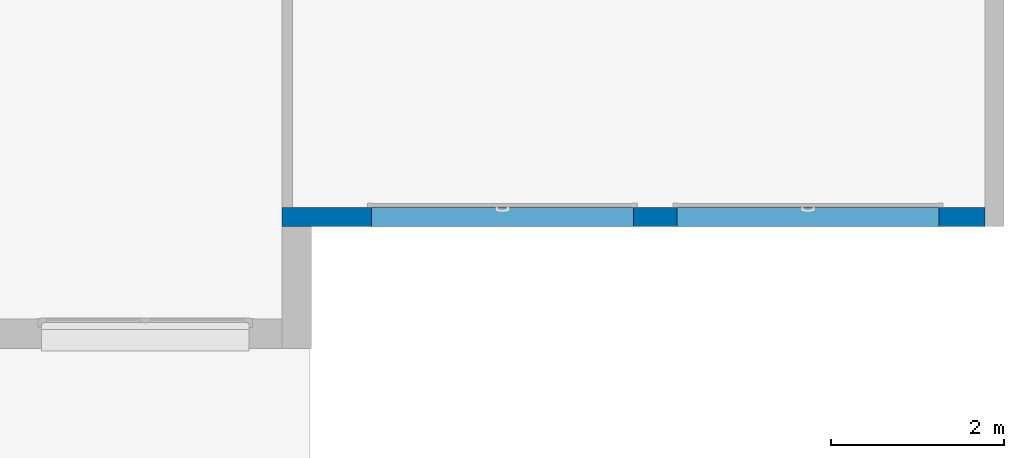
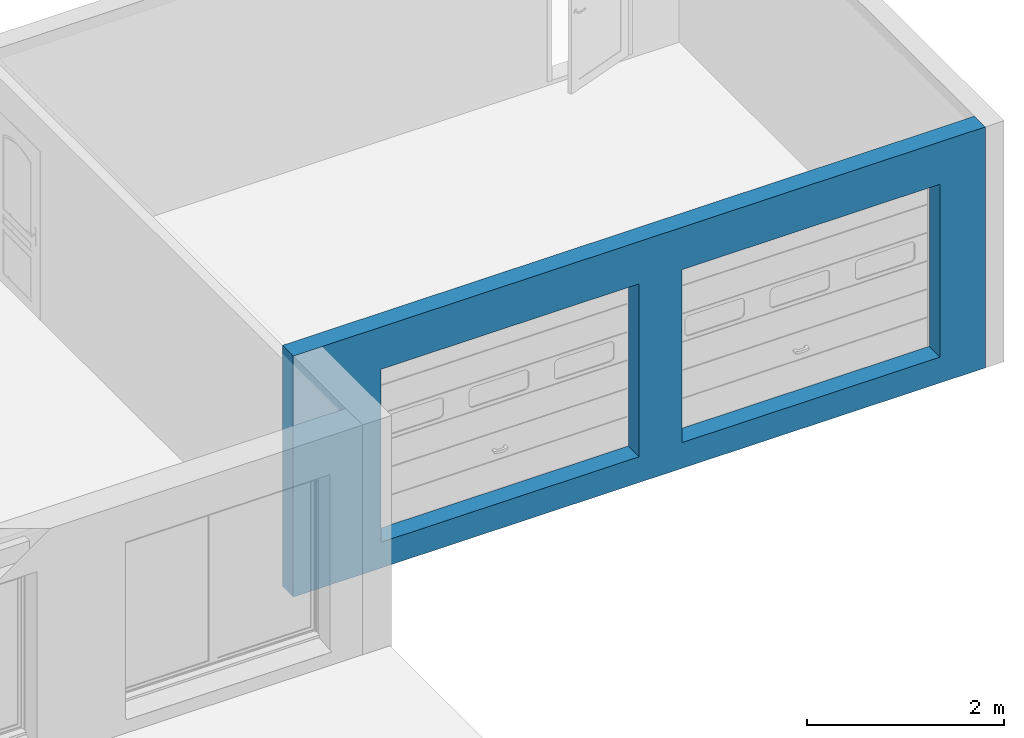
# One storey, part 20 of 23: 1 wall, 2 openings.
"""IFC2X3 building model written with IfcOpenShell, lengths in metres."""

from ifc_helpers import new_model, entity, si_unit, converted_unit, derived_unit, direction, frame, frame_2d, origin, origin_2d_with_axis, place, context, subcontext, project, spatial, rectangle, extrude, material, layer, layer_set, layer_usage, type_object, element, save


model = new_model("IFC2X3")

# Units and contexts
model_context = context("Model", 3, precision=1e-05, world=origin(), true_north=direction((6.12303176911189e-17, 1.0)))
body_context = subcontext(model_context, "Body", "Model", "MODEL_VIEW")
ifc_project = project(units=[si_unit("LENGTHUNIT", "METRE"), si_unit("AREAUNIT", "SQUARE_METRE"), si_unit("VOLUMEUNIT", "CUBIC_METRE"), converted_unit("PLANEANGLEUNIT", "DEGREE", entity("IfcRatioMeasure", 0.0174532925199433), si_unit("PLANEANGLEUNIT", "RADIAN"), dimensions=[0, 0, 0, 0, 0, 0, 0]), si_unit("MASSUNIT", "GRAM", prefix="KILO"), derived_unit("MASSDENSITYUNIT", [(si_unit("MASSUNIT", "GRAM", prefix="KILO"), 1), (si_unit("LENGTHUNIT", "METRE"), -3)]), si_unit("TIMEUNIT", "SECOND"), si_unit("FREQUENCYUNIT", "HERTZ"), si_unit("THERMODYNAMICTEMPERATUREUNIT", "DEGREE_CELSIUS"), derived_unit("THERMALTRANSMITTANCEUNIT", [(si_unit("MASSUNIT", "GRAM", prefix="KILO"), 1), (si_unit("THERMODYNAMICTEMPERATUREUNIT", "KELVIN"), -1), (si_unit("TIMEUNIT", "SECOND"), -3)]), derived_unit("VOLUMETRICFLOWRATEUNIT", [(si_unit("LENGTHUNIT", "METRE"), 3), (si_unit("TIMEUNIT", "SECOND"), -1)]), si_unit("ELECTRICCURRENTUNIT", "AMPERE"), si_unit("ELECTRICVOLTAGEUNIT", "VOLT"), si_unit("POWERUNIT", "WATT"), si_unit("FORCEUNIT", "NEWTON", prefix="KILO"), si_unit("ILLUMINANCEUNIT", "LUX"), si_unit("LUMINOUSFLUXUNIT", "LUMEN"), si_unit("LUMINOUSINTENSITYUNIT", "CANDELA"), derived_unit("USERDEFINED", [(si_unit("MASSUNIT", "GRAM", prefix="KILO"), -1), (si_unit("LENGTHUNIT", "METRE"), -2), (si_unit("TIMEUNIT", "SECOND"), 3), (si_unit("LUMINOUSFLUXUNIT", "LUMEN"), 1)]), derived_unit("LINEARVELOCITYUNIT", [(si_unit("LENGTHUNIT", "METRE"), 1), (si_unit("TIMEUNIT", "SECOND"), -1)]), si_unit("PRESSUREUNIT", "PASCAL"), derived_unit("USERDEFINED", [(si_unit("LENGTHUNIT", "METRE"), -2), (si_unit("MASSUNIT", "GRAM", prefix="KILO"), 1), (si_unit("TIMEUNIT", "SECOND"), -2)])], contexts=[model_context])

# Site, building, storey
site_placement = place(None, origin())
site = spatial("IfcSite", under=ifc_project, at=site_placement, Name="Default", CompositionType="ELEMENT")
building_placement = place(site_placement, origin())
building = spatial("IfcBuilding", under=site, at=building_placement, CompositionType="ELEMENT")
storey_placement = place(building_placement, origin())
storey = spatial("IfcBuildingStorey", under=building, at=storey_placement, Name="2 - Rez de Chaussée", CompositionType="ELEMENT", Elevation=-1.94916083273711e-14)

# Wall, openings
ifc_material_1 = material(Name="Maçonnerie - Enduit")
ifc_layer_1 = layer(ifc_material_1, 0.02)
ifc_material_2 = material(Name="Blocs béton manufacturés")
ifc_layer_2 = layer(ifc_material_2, 0.2)
ifc_layer_set = layer_set([ifc_layer_1, ifc_layer_2], Name="Mur de base:Parpaing 20 Enduit 2")
ifc_layer_usage = layer_usage(ifc_layer_set, "AXIS2", "NEGATIVE", 0.11)
wall_type = type_object("IfcWallType", Name="Mur de base:Parpaing 20 Enduit 2", PredefinedType="STANDARD", material=ifc_layer_set)
wall_placement = place(storey_placement, frame((13.3037775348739, 0.308055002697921, -0.32), z_axis=(0.0, 0.0, 1.0), x_axis=(-1.0, 0.0, 0.0)))
wall = element("IfcWallStandardCase", 1, at=wall_placement, inside=storey, type_object=wall_type, material=ifc_layer_usage, Name="Mur de base:Parpaing 20 Enduit 2", ObjectType="Mur de base:Parpaing 20 Enduit 2", context=body_context, shape_type="SweptSolid", body=[
    extrude(rectangle(XDim=8.12000000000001, YDim=0.22, at=frame_2d((4.06, -2.08166817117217e-17), x_axis=(-1.0, 0.0))), origin(), (0.0, 0.0, 1.0), 2.99000000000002),
])
opening_1_placement = place(wall_placement, frame((13.3037775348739, 0.308055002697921, 0.32), z_axis=(0.0, 0.0, 1.0), x_axis=(-1.0, 0.0, 0.0)))
element("IfcOpeningElement", 2, at=opening_1_placement, cuts=wall, Name="Mur de base:Parpaing 20 Enduit 2", ObjectType="Opening", context=body_context, shape_type="SweptSolid", body=[
    extrude(rectangle(XDim=2.14500000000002, YDim=3.02999999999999, at=origin_2d_with_axis()), frame((7.72877753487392, 0.718055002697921, 1.07250000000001), z_axis=(0.0, -1.0, 0.0), x_axis=(0.0, 0.0, -1.0)), (0.0, 0.0, 1.0), 0.820000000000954),
])
opening_2_placement = place(wall_placement, frame((13.3037775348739, 0.308055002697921, 0.32), z_axis=(0.0, 0.0, 1.0), x_axis=(-1.0, 0.0, 0.0)))
element("IfcOpeningElement", 3, at=opening_2_placement, cuts=wall, Name="Mur de base:Parpaing 20 Enduit 2", ObjectType="Opening", context=body_context, shape_type="SweptSolid", body=[
    extrude(rectangle(XDim=2.14500000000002, YDim=3.02999999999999, at=frame_2d((0.0, -1.11022302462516e-15), x_axis=(1.0, 0.0))), frame((11.2587775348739, 0.718055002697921, 1.07250000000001), z_axis=(0.0, -1.0, 0.0), x_axis=(0.0, 0.0, -1.0)), (0.0, 0.0, 1.0), 0.820000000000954),
])

save(model, "model.ifc")
